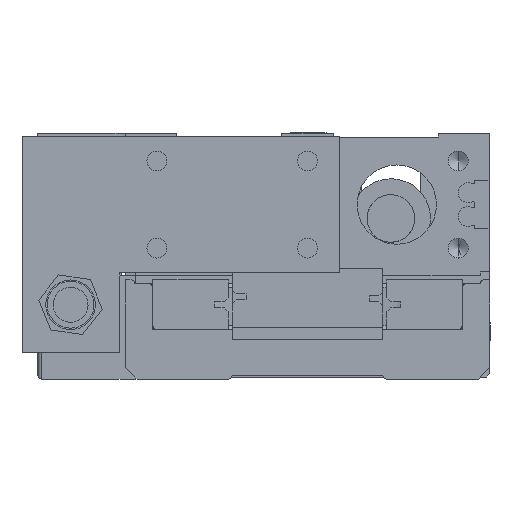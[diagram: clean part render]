
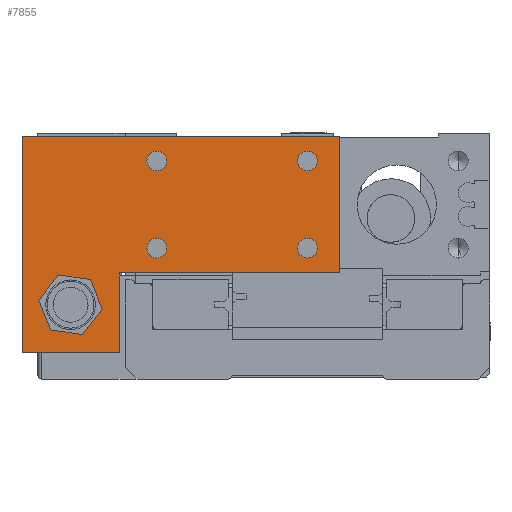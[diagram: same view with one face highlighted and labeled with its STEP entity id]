
A CAD part, front view. The second image highlights one B-rep face of the part: STEP entity #7855.
In plain terms, the highlighted planar face has unit normal (0, -1, 0) as drawn and (0, 0, -1) by its records, which use the part's own axes.
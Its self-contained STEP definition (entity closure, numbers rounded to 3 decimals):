
#4990 = VERTEX_POINT ( 'NONE', #32166 ) ;
#7687 = VERTEX_POINT ( 'NONE', #19380 ) ;
#7693 = EDGE_CURVE ( 'NONE', #7705, #7706, #19374, .T. ) ;
#7705 = VERTEX_POINT ( 'NONE', #19361 ) ;
#7706 = VERTEX_POINT ( 'NONE', #19367 ) ;
#7727 = VERTEX_POINT ( 'NONE', #19384 ) ;
#7731 = VERTEX_POINT ( 'NONE', #19442 ) ;
#7733 = EDGE_CURVE ( 'NONE', #7687, #7731, #19437, .T. ) ;
#7739 = VERTEX_POINT ( 'NONE', #19444 ) ;
#7742 = VERTEX_POINT ( 'NONE', #19424 ) ;
#7746 = VERTEX_POINT ( 'NONE', #19419 ) ;
#7765 = VERTEX_POINT ( 'NONE', #19507 ) ;
#7774 = EDGE_CURVE ( 'NONE', #7765, #4990, #19509, .T. ) ;
#7779 = EDGE_CURVE ( 'NONE', #7783, #7782, #19493, .T. ) ;
#7782 = VERTEX_POINT ( 'NONE', #19539 ) ;
#7783 = VERTEX_POINT ( 'NONE', #19484 ) ;
#7785 = EDGE_CURVE ( 'NONE', #7795, #7788, #19534, .T. ) ;
#7788 = VERTEX_POINT ( 'NONE', #19536 ) ;
#7795 = VERTEX_POINT ( 'NONE', #19503 ) ;
#7797 = EDGE_CURVE ( 'NONE', #7739, #7727, #19516, .T. ) ;
#7802 = EDGE_CURVE ( 'NONE', #7746, #7742, #19576, .T. ) ;
#7815 = EDGE_CURVE ( 'NONE', #7829, #7833, #19602, .T. ) ;
#7824 = EDGE_CURVE ( 'NONE', #7833, #7795, #19584, .T. ) ;
#7828 = EDGE_CURVE ( 'NONE', #4990, #7829, #19627, .T. ) ;
#7829 = VERTEX_POINT ( 'NONE', #19630 ) ;
#7833 = VERTEX_POINT ( 'NONE', #19634 ) ;
#7841 = EDGE_CURVE ( 'NONE', #7788, #7765, #19672, .T. ) ;
#7848 = EDGE_LOOP ( 'NONE', ( #7858, #7857 ) ) ;
#7850 = ORIENTED_EDGE ( 'NONE', *, *, #7779, .F. ) ;
#7851 = EDGE_CURVE ( 'NONE', #7706, #7705, #19662, .T. ) ;
#7855 = ADVANCED_FACE ( 'NONE', ( #19616, #19648, #19647, #19645, #19644, #19663 ), #19667, .T. ) ;
#7856 = EDGE_LOOP ( 'NONE', ( #7859, #7850 ) ) ;
#7857 = ORIENTED_EDGE ( 'NONE', *, *, #7693, .F. ) ;
#7858 = ORIENTED_EDGE ( 'NONE', *, *, #7851, .F. ) ;
#7859 = ORIENTED_EDGE ( 'NONE', *, *, #7917, .F. ) ;
#7860 = EDGE_CURVE ( 'NONE', #7727, #7739, #19639, .T. ) ;
#7861 = EDGE_LOOP ( 'NONE', ( #7863, #7862 ) ) ;
#7862 = ORIENTED_EDGE ( 'NONE', *, *, #7797, .F. ) ;
#7863 = ORIENTED_EDGE ( 'NONE', *, *, #7860, .F. ) ;
#7864 = EDGE_LOOP ( 'NONE', ( #7916, #7922, #7920, #7918, #7919, #7921 ) ) ;
#7905 = EDGE_LOOP ( 'NONE', ( #7923, #7907 ) ) ;
#7906 = ORIENTED_EDGE ( 'NONE', *, *, #7733, .F. ) ;
#7907 = ORIENTED_EDGE ( 'NONE', *, *, #7802, .F. ) ;
#7908 = EDGE_LOOP ( 'NONE', ( #7924, #7906 ) ) ;
#7911 = EDGE_CURVE ( 'NONE', #7731, #7687, #19716, .T. ) ;
#7916 = ORIENTED_EDGE ( 'NONE', *, *, #7785, .F. ) ;
#7917 = EDGE_CURVE ( 'NONE', #7782, #7783, #19764, .T. ) ;
#7918 = ORIENTED_EDGE ( 'NONE', *, *, #7828, .F. ) ;
#7919 = ORIENTED_EDGE ( 'NONE', *, *, #7774, .F. ) ;
#7920 = ORIENTED_EDGE ( 'NONE', *, *, #7815, .F. ) ;
#7921 = ORIENTED_EDGE ( 'NONE', *, *, #7841, .F. ) ;
#7922 = ORIENTED_EDGE ( 'NONE', *, *, #7824, .F. ) ;
#7923 = ORIENTED_EDGE ( 'NONE', *, *, #7926, .F. ) ;
#7924 = ORIENTED_EDGE ( 'NONE', *, *, #7911, .F. ) ;
#7926 = EDGE_CURVE ( 'NONE', #7742, #7746, #19760, .T. ) ;
#19361 = CARTESIAN_POINT ( 'NONE',  ( -61.5, 42.5, 0. ) ) ;
#19362 = DIRECTION ( 'NONE',  ( -1., 0., 0. ) ) ;
#19363 = DIRECTION ( 'NONE',  ( 0., 0., -1. ) ) ;
#19364 = CARTESIAN_POINT ( 'NONE',  ( -67.75, 42.5, 0. ) ) ;
#19367 = CARTESIAN_POINT ( 'NONE',  ( -74., 42.5, 0. ) ) ;
#19371 = AXIS2_PLACEMENT_3D ( 'NONE', #19364, #19363, #19362 ) ;
#19374 = CIRCLE ( 'NONE', #19371, 6.25 ) ;
#19380 = CARTESIAN_POINT ( 'NONE',  ( -43.5, 28.25, 0. ) ) ;
#19384 = CARTESIAN_POINT ( 'NONE',  ( -48.5, 6.25, 0. ) ) ;
#19419 = CARTESIAN_POINT ( 'NONE',  ( -5.5, 28.25, 0. ) ) ;
#19424 = CARTESIAN_POINT ( 'NONE',  ( -10.5, 28.25, 0. ) ) ;
#19432 = DIRECTION ( 'NONE',  ( -1., 0., 0. ) ) ;
#19433 = DIRECTION ( 'NONE',  ( 0., 0., -1. ) ) ;
#19434 = CARTESIAN_POINT ( 'NONE',  ( -46., 28.25, 0. ) ) ;
#19435 = AXIS2_PLACEMENT_3D ( 'NONE', #19434, #19433, #19432 ) ;
#19437 = CIRCLE ( 'NONE', #19435, 2.5 ) ;
#19442 = CARTESIAN_POINT ( 'NONE',  ( -48.5, 28.25, 0. ) ) ;
#19444 = CARTESIAN_POINT ( 'NONE',  ( -43.5, 6.25, 0. ) ) ;
#19484 = CARTESIAN_POINT ( 'NONE',  ( -5.5, 6.25, 0. ) ) ;
#19489 = DIRECTION ( 'NONE',  ( 0., 1., 0. ) ) ;
#19490 = VECTOR ( 'NONE', #19489, 1000. ) ;
#19493 = CIRCLE ( 'NONE', #19544, 2.5 ) ;
#19503 = CARTESIAN_POINT ( 'NONE',  ( 0., 0., 0. ) ) ;
#19507 = CARTESIAN_POINT ( 'NONE',  ( -55.5, 34.5, 0. ) ) ;
#19508 = CARTESIAN_POINT ( 'NONE',  ( -55.5, 54.5, 0. ) ) ;
#19509 = LINE ( 'NONE', #19508, #19490 ) ;
#19512 = DIRECTION ( 'NONE',  ( -1., 0., 0. ) ) ;
#19513 = DIRECTION ( 'NONE',  ( 0., 0., -1. ) ) ;
#19514 = CARTESIAN_POINT ( 'NONE',  ( -46., 6.25, 0. ) ) ;
#19515 = AXIS2_PLACEMENT_3D ( 'NONE', #19514, #19513, #19512 ) ;
#19516 = CIRCLE ( 'NONE', #19515, 2.5 ) ;
#19517 = AXIS2_PLACEMENT_3D ( 'NONE', #19565, #19563, #19562 ) ;
#19531 = DIRECTION ( 'NONE',  ( 0., 1., 0. ) ) ;
#19532 = VECTOR ( 'NONE', #19531, 1000. ) ;
#19533 = CARTESIAN_POINT ( 'NONE',  ( 0., 34.5, 0. ) ) ;
#19534 = LINE ( 'NONE', #19533, #19532 ) ;
#19536 = CARTESIAN_POINT ( 'NONE',  ( 0., 34.5, 0. ) ) ;
#19539 = CARTESIAN_POINT ( 'NONE',  ( -10.5, 6.25, 0. ) ) ;
#19541 = DIRECTION ( 'NONE',  ( -1., 0., 0. ) ) ;
#19542 = DIRECTION ( 'NONE',  ( 0., 0., -1. ) ) ;
#19543 = CARTESIAN_POINT ( 'NONE',  ( -8., 6.25, 0. ) ) ;
#19544 = AXIS2_PLACEMENT_3D ( 'NONE', #19543, #19542, #19541 ) ;
#19562 = DIRECTION ( 'NONE',  ( -1., 0., 0. ) ) ;
#19563 = DIRECTION ( 'NONE',  ( 0., 0., -1. ) ) ;
#19565 = CARTESIAN_POINT ( 'NONE',  ( -8., 28.25, 0. ) ) ;
#19576 = CIRCLE ( 'NONE', #19517, 2.5 ) ;
#19581 = DIRECTION ( 'NONE',  ( 1., 0., 0. ) ) ;
#19582 = VECTOR ( 'NONE', #19581, 1000. ) ;
#19583 = CARTESIAN_POINT ( 'NONE',  ( 0., 0., 0. ) ) ;
#19584 = LINE ( 'NONE', #19583, #19582 ) ;
#19595 = DIRECTION ( 'NONE',  ( 0., -1., 0. ) ) ;
#19596 = VECTOR ( 'NONE', #19595, 1000. ) ;
#19600 = CARTESIAN_POINT ( 'NONE',  ( -80., 0., 0. ) ) ;
#19602 = LINE ( 'NONE', #19600, #19596 ) ;
#19616 = FACE_BOUND ( 'NONE', #7848, .T. ) ;
#19624 = DIRECTION ( 'NONE',  ( -1., 0., 0. ) ) ;
#19625 = VECTOR ( 'NONE', #19624, 1000. ) ;
#19626 = CARTESIAN_POINT ( 'NONE',  ( -80., 54.5, 0. ) ) ;
#19627 = LINE ( 'NONE', #19626, #19625 ) ;
#19630 = CARTESIAN_POINT ( 'NONE',  ( -80., 54.5, 0. ) ) ;
#19634 = CARTESIAN_POINT ( 'NONE',  ( -80., 0., 0. ) ) ;
#19639 = CIRCLE ( 'NONE', #19710, 2.5 ) ;
#19643 = AXIS2_PLACEMENT_3D ( 'NONE', #19655, #19654, #19711 ) ;
#19644 = FACE_BOUND ( 'NONE', #7905, .T. ) ;
#19645 = FACE_OUTER_BOUND ( 'NONE', #7864, .T. ) ;
#19646 = DIRECTION ( 'NONE',  ( -1., 0., 0. ) ) ;
#19647 = FACE_BOUND ( 'NONE', #7856, .T. ) ;
#19648 = FACE_BOUND ( 'NONE', #7861, .T. ) ;
#19649 = CARTESIAN_POINT ( 'NONE',  ( -46., 6.25, 0. ) ) ;
#19652 = CARTESIAN_POINT ( 'NONE',  ( -67.75, 42.5, 0. ) ) ;
#19653 = DIRECTION ( 'NONE',  ( 0., 0., -1. ) ) ;
#19654 = DIRECTION ( 'NONE',  ( 0., 0., -1. ) ) ;
#19655 = CARTESIAN_POINT ( 'NONE',  ( 0., 0., 0. ) ) ;
#19656 = AXIS2_PLACEMENT_3D ( 'NONE', #19652, #19653, #19646 ) ;
#19662 = CIRCLE ( 'NONE', #19656, 6.25 ) ;
#19663 = FACE_BOUND ( 'NONE', #7908, .T. ) ;
#19667 = PLANE ( 'NONE',  #19643 ) ;
#19668 = DIRECTION ( 'NONE',  ( -1., 0., 0. ) ) ;
#19669 = VECTOR ( 'NONE', #19668, 1000. ) ;
#19670 = CARTESIAN_POINT ( 'NONE',  ( -55.5, 34.5, 0. ) ) ;
#19672 = LINE ( 'NONE', #19670, #19669 ) ;
#19708 = DIRECTION ( 'NONE',  ( -1., 0., 0. ) ) ;
#19709 = DIRECTION ( 'NONE',  ( 0., 0., -1. ) ) ;
#19710 = AXIS2_PLACEMENT_3D ( 'NONE', #19649, #19709, #19708 ) ;
#19711 = DIRECTION ( 'NONE',  ( -1., 0., 0. ) ) ;
#19712 = DIRECTION ( 'NONE',  ( -1., 0., 0. ) ) ;
#19713 = DIRECTION ( 'NONE',  ( 0., 0., -1. ) ) ;
#19714 = CARTESIAN_POINT ( 'NONE',  ( -46., 28.25, 0. ) ) ;
#19715 = AXIS2_PLACEMENT_3D ( 'NONE', #19714, #19713, #19712 ) ;
#19716 = CIRCLE ( 'NONE', #19715, 2.5 ) ;
#19748 = DIRECTION ( 'NONE',  ( -1., 0., 0. ) ) ;
#19749 = DIRECTION ( 'NONE',  ( 0., 0., -1. ) ) ;
#19750 = CARTESIAN_POINT ( 'NONE',  ( -8., 28.25, 0. ) ) ;
#19751 = AXIS2_PLACEMENT_3D ( 'NONE', #19750, #19749, #19748 ) ;
#19755 = DIRECTION ( 'NONE',  ( -1., 0., 0. ) ) ;
#19756 = DIRECTION ( 'NONE',  ( 0., 0., -1. ) ) ;
#19757 = CARTESIAN_POINT ( 'NONE',  ( -8., 6.25, 0. ) ) ;
#19758 = AXIS2_PLACEMENT_3D ( 'NONE', #19757, #19756, #19755 ) ;
#19760 = CIRCLE ( 'NONE', #19751, 2.5 ) ;
#19764 = CIRCLE ( 'NONE', #19758, 2.5 ) ;
#32166 = CARTESIAN_POINT ( 'NONE',  ( -55.5, 54.5, 0. ) ) ;
